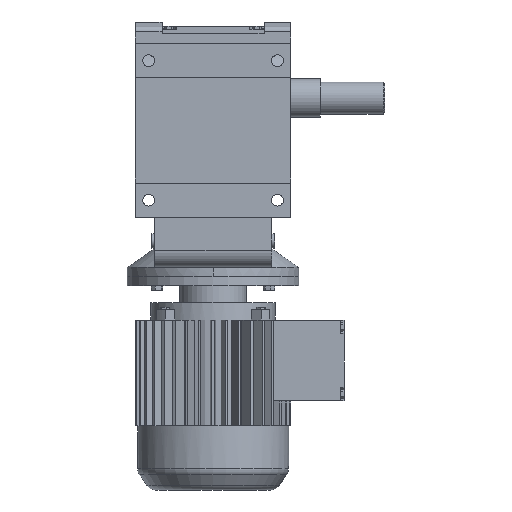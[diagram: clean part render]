
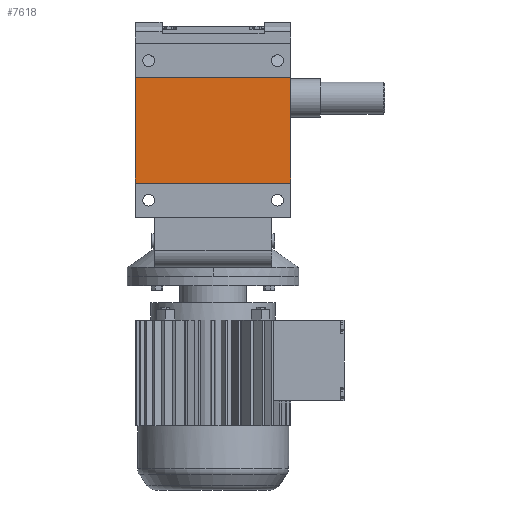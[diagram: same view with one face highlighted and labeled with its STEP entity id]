
A CAD part, front view. The second image highlights one B-rep face of the part: STEP entity #7618.
In plain terms, the highlighted planar face has unit normal (0, -1, 0).
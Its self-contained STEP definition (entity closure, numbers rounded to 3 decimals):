
#340 = PLANE('',#341);
#341 = AXIS2_PLACEMENT_3D('',#342,#343,#344);
#342 = CARTESIAN_POINT('',(72.5,-85.08,48.));
#343 = DIRECTION('',(1.,0.,0.));
#344 = DIRECTION('',(0.,0.,-1.));
#467 = PLANE('',#468);
#468 = AXIS2_PLACEMENT_3D('',#469,#470,#471);
#469 = CARTESIAN_POINT('',(-72.5,-85.08,48.));
#470 = DIRECTION('',(1.,0.,0.));
#471 = DIRECTION('',(0.,0.,-1.));
#495 = PLANE('',#496);
#496 = AXIS2_PLACEMENT_3D('',#497,#498,#499);
#497 = CARTESIAN_POINT('',(72.5,-108.08,19.));
#498 = DIRECTION('',(0.,0.,1.));
#499 = DIRECTION('',(1.,0.,0.));
#2311 = VERTEX_POINT('',#2312);
#2312 = CARTESIAN_POINT('',(72.5,-108.08,19.));
#2333 = EDGE_CURVE('',#2311,#2334,#2336,.T.);
#2334 = VERTEX_POINT('',#2335);
#2335 = CARTESIAN_POINT('',(72.5,-108.08,-79.));
#2336 = SURFACE_CURVE('',#2337,(#2341,#2348),.PCURVE_S1.);
#2337 = LINE('',#2338,#2339);
#2338 = CARTESIAN_POINT('',(72.5,-108.08,19.));
#2339 = VECTOR('',#2340,1.);
#2340 = DIRECTION('',(0.,0.,-1.));
#2341 = PCURVE('',#340,#2342);
#2342 = DEFINITIONAL_REPRESENTATION('',(#2343),#2347);
#2343 = LINE('',#2344,#2345);
#2344 = CARTESIAN_POINT('',(29.,-23.));
#2345 = VECTOR('',#2346,1.);
#2346 = DIRECTION('',(1.,0.));
#2347 = ( GEOMETRIC_REPRESENTATION_CONTEXT(2) 
PARAMETRIC_REPRESENTATION_CONTEXT() REPRESENTATION_CONTEXT('2D SPACE',''
  ) );
#2348 = PCURVE('',#2349,#2354);
#2349 = PLANE('',#2350);
#2350 = AXIS2_PLACEMENT_3D('',#2351,#2352,#2353);
#2351 = CARTESIAN_POINT('',(54.5,-108.08,53.));
#2352 = DIRECTION('',(0.,1.,0.));
#2353 = DIRECTION('',(0.,0.,1.));
#2354 = DEFINITIONAL_REPRESENTATION('',(#2355),#2359);
#2355 = LINE('',#2356,#2357);
#2356 = CARTESIAN_POINT('',(-34.,18.));
#2357 = VECTOR('',#2358,1.);
#2358 = DIRECTION('',(-1.,0.));
#2359 = ( GEOMETRIC_REPRESENTATION_CONTEXT(2) 
PARAMETRIC_REPRESENTATION_CONTEXT() REPRESENTATION_CONTEXT('2D SPACE',''
  ) );
#2377 = PLANE('',#2378);
#2378 = AXIS2_PLACEMENT_3D('',#2379,#2380,#2381);
#2379 = CARTESIAN_POINT('',(72.5,-108.08,-79.));
#2380 = DIRECTION('',(0.,0.,-1.));
#2381 = DIRECTION('',(-1.,0.,0.));
#2742 = VERTEX_POINT('',#2743);
#2743 = CARTESIAN_POINT('',(-72.5,-108.08,-79.));
#2764 = EDGE_CURVE('',#2765,#2742,#2767,.T.);
#2765 = VERTEX_POINT('',#2766);
#2766 = CARTESIAN_POINT('',(-72.5,-108.08,19.));
#2767 = SURFACE_CURVE('',#2768,(#2772,#2779),.PCURVE_S1.);
#2768 = LINE('',#2769,#2770);
#2769 = CARTESIAN_POINT('',(-72.5,-108.08,19.));
#2770 = VECTOR('',#2771,1.);
#2771 = DIRECTION('',(0.,0.,-1.));
#2772 = PCURVE('',#467,#2773);
#2773 = DEFINITIONAL_REPRESENTATION('',(#2774),#2778);
#2774 = LINE('',#2775,#2776);
#2775 = CARTESIAN_POINT('',(29.,-23.));
#2776 = VECTOR('',#2777,1.);
#2777 = DIRECTION('',(1.,0.));
#2778 = ( GEOMETRIC_REPRESENTATION_CONTEXT(2) 
PARAMETRIC_REPRESENTATION_CONTEXT() REPRESENTATION_CONTEXT('2D SPACE',''
  ) );
#2779 = PCURVE('',#2349,#2780);
#2780 = DEFINITIONAL_REPRESENTATION('',(#2781),#2785);
#2781 = LINE('',#2782,#2783);
#2782 = CARTESIAN_POINT('',(-34.,-127.));
#2783 = VECTOR('',#2784,1.);
#2784 = DIRECTION('',(-1.,0.));
#2785 = ( GEOMETRIC_REPRESENTATION_CONTEXT(2) 
PARAMETRIC_REPRESENTATION_CONTEXT() REPRESENTATION_CONTEXT('2D SPACE',''
  ) );
#3126 = EDGE_CURVE('',#2311,#2765,#3127,.T.);
#3127 = SURFACE_CURVE('',#3128,(#3132,#3139),.PCURVE_S1.);
#3128 = LINE('',#3129,#3130);
#3129 = CARTESIAN_POINT('',(72.5,-108.08,19.));
#3130 = VECTOR('',#3131,1.);
#3131 = DIRECTION('',(-1.,0.,0.));
#3132 = PCURVE('',#495,#3133);
#3133 = DEFINITIONAL_REPRESENTATION('',(#3134),#3138);
#3134 = LINE('',#3135,#3136);
#3135 = CARTESIAN_POINT('',(0.,0.));
#3136 = VECTOR('',#3137,1.);
#3137 = DIRECTION('',(-1.,0.));
#3138 = ( GEOMETRIC_REPRESENTATION_CONTEXT(2) 
PARAMETRIC_REPRESENTATION_CONTEXT() REPRESENTATION_CONTEXT('2D SPACE',''
  ) );
#3139 = PCURVE('',#2349,#3140);
#3140 = DEFINITIONAL_REPRESENTATION('',(#3141),#3145);
#3141 = LINE('',#3142,#3143);
#3142 = CARTESIAN_POINT('',(-34.,18.));
#3143 = VECTOR('',#3144,1.);
#3144 = DIRECTION('',(0.,-1.));
#3145 = ( GEOMETRIC_REPRESENTATION_CONTEXT(2) 
PARAMETRIC_REPRESENTATION_CONTEXT() REPRESENTATION_CONTEXT('2D SPACE',''
  ) );
#7618 = ADVANCED_FACE('',(#7619),#2349,.F.);
#7619 = FACE_BOUND('',#7620,.T.);
#7620 = EDGE_LOOP('',(#7621,#7622,#7623,#7644));
#7621 = ORIENTED_EDGE('',*,*,#3126,.T.);
#7622 = ORIENTED_EDGE('',*,*,#2764,.T.);
#7623 = ORIENTED_EDGE('',*,*,#7624,.F.);
#7624 = EDGE_CURVE('',#2334,#2742,#7625,.T.);
#7625 = SURFACE_CURVE('',#7626,(#7630,#7637),.PCURVE_S1.);
#7626 = LINE('',#7627,#7628);
#7627 = CARTESIAN_POINT('',(72.5,-108.08,-79.));
#7628 = VECTOR('',#7629,1.);
#7629 = DIRECTION('',(-1.,0.,0.));
#7630 = PCURVE('',#2349,#7631);
#7631 = DEFINITIONAL_REPRESENTATION('',(#7632),#7636);
#7632 = LINE('',#7633,#7634);
#7633 = CARTESIAN_POINT('',(-132.,18.));
#7634 = VECTOR('',#7635,1.);
#7635 = DIRECTION('',(0.,-1.));
#7636 = ( GEOMETRIC_REPRESENTATION_CONTEXT(2) 
PARAMETRIC_REPRESENTATION_CONTEXT() REPRESENTATION_CONTEXT('2D SPACE',''
  ) );
#7637 = PCURVE('',#2377,#7638);
#7638 = DEFINITIONAL_REPRESENTATION('',(#7639),#7643);
#7639 = LINE('',#7640,#7641);
#7640 = CARTESIAN_POINT('',(0.,0.));
#7641 = VECTOR('',#7642,1.);
#7642 = DIRECTION('',(1.,0.));
#7643 = ( GEOMETRIC_REPRESENTATION_CONTEXT(2) 
PARAMETRIC_REPRESENTATION_CONTEXT() REPRESENTATION_CONTEXT('2D SPACE',''
  ) );
#7644 = ORIENTED_EDGE('',*,*,#2333,.F.);
